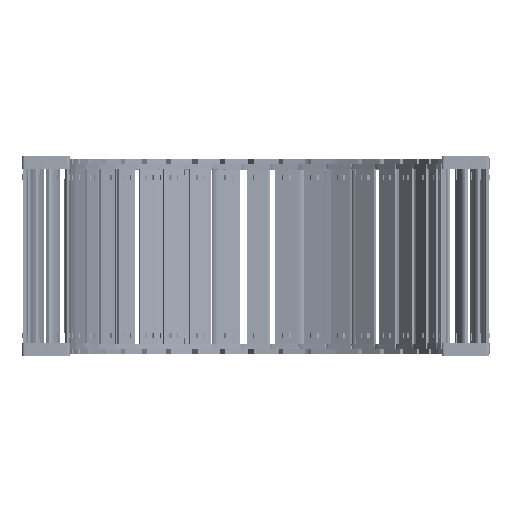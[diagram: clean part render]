
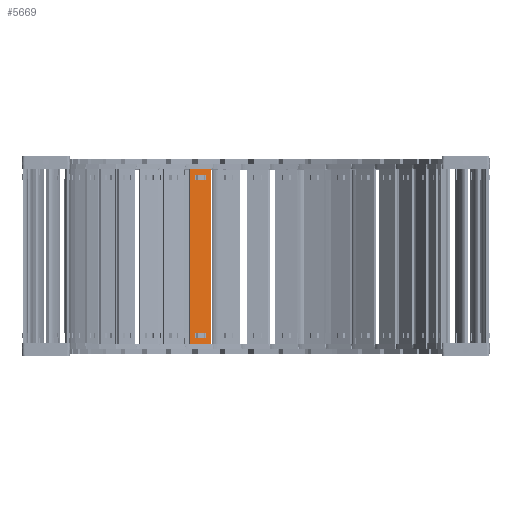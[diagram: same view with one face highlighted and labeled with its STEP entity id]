
A CAD part, top view. The second image highlights one B-rep face of the part: STEP entity #5669.
In plain terms, the highlighted planar face has unit normal (0.279, 0, 0.96) as drawn and (0, 1, 0) by its records, which use the part's own axes.
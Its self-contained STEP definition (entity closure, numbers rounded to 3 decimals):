
#5089=DIRECTION('',(0.,0.,1.));
#5090=VECTOR('',#5089,15.8);
#5091=CARTESIAN_POINT('',(110.74,1.5,-7.9));
#5092=LINE('',#5091,#5090);
#5093=DIRECTION('',(-1.,0.,0.));
#5094=VECTOR('',#5093,125.5);
#5095=CARTESIAN_POINT('',(110.74,1.5,7.9));
#5096=LINE('',#5095,#5094);
#5097=DIRECTION('',(0.,0.,-1.));
#5098=VECTOR('',#5097,15.8);
#5099=CARTESIAN_POINT('',(-14.76,1.5,7.9));
#5100=LINE('',#5099,#5098);
#5101=DIRECTION('',(1.,0.,0.));
#5102=VECTOR('',#5101,3.648);
#5103=CARTESIAN_POINT('',(103.122,1.5,4.075));
#5104=LINE('',#5103,#5102);
#5105=DIRECTION('',(0.,0.,-1.));
#5106=VECTOR('',#5105,8.15);
#5107=CARTESIAN_POINT('',(106.77,1.5,4.075));
#5108=LINE('',#5107,#5106);
#5109=DIRECTION('',(-1.,0.,0.));
#5110=VECTOR('',#5109,3.648);
#5111=CARTESIAN_POINT('',(106.77,1.5,-4.075));
#5112=LINE('',#5111,#5110);
#5113=DIRECTION('',(0.,0.,-1.));
#5114=VECTOR('',#5113,8.15);
#5115=CARTESIAN_POINT('',(-7.142,1.5,4.075));
#5116=LINE('',#5115,#5114);
#5117=DIRECTION('',(-1.,0.,0.));
#5118=VECTOR('',#5117,3.648);
#5119=CARTESIAN_POINT('',(-7.142,1.5,-4.075));
#5120=LINE('',#5119,#5118);
#5121=DIRECTION('',(0.,0.,1.));
#5122=VECTOR('',#5121,8.15);
#5123=CARTESIAN_POINT('',(-10.79,1.5,-4.075));
#5124=LINE('',#5123,#5122);
#5125=DIRECTION('',(1.,0.,0.));
#5126=VECTOR('',#5125,3.648);
#5127=CARTESIAN_POINT('',(-10.79,1.5,4.075));
#5128=LINE('',#5127,#5126);
#5133=DIRECTION('',(-1.,0.,0.));
#5134=VECTOR('',#5133,125.5);
#5135=CARTESIAN_POINT('',(110.74,1.5,-7.9));
#5136=LINE('',#5135,#5134);
#5254=DIRECTION('',(0.,0.,-1.));
#5255=VECTOR('',#5254,8.15);
#5256=CARTESIAN_POINT('',(103.122,1.5,4.075));
#5257=LINE('',#5256,#5255);
#5439=CARTESIAN_POINT('',(106.77,1.5,4.075));
#5440=VERTEX_POINT('',#5439);
#5441=CARTESIAN_POINT('',(103.122,1.5,4.075));
#5442=VERTEX_POINT('',#5441);
#5483=CARTESIAN_POINT('',(103.122,1.5,-4.075));
#5484=VERTEX_POINT('',#5483);
#5485=CARTESIAN_POINT('',(106.77,1.5,-4.075));
#5486=VERTEX_POINT('',#5485);
#5487=CARTESIAN_POINT('',(110.74,1.5,7.9));
#5489=VERTEX_POINT('',#5487);
#5491=CARTESIAN_POINT('',(110.74,1.5,-7.9));
#5492=VERTEX_POINT('',#5491);
#5515=CARTESIAN_POINT('',(-7.142,1.5,4.075));
#5516=CARTESIAN_POINT('',(-7.142,1.5,-4.075));
#5517=VERTEX_POINT('',#5515);
#5518=VERTEX_POINT('',#5516);
#5519=CARTESIAN_POINT('',(-10.79,1.5,-4.075));
#5520=VERTEX_POINT('',#5519);
#5521=CARTESIAN_POINT('',(-10.79,1.5,4.075));
#5522=VERTEX_POINT('',#5521);
#5523=CARTESIAN_POINT('',(-14.76,1.5,7.9));
#5524=VERTEX_POINT('',#5523);
#5527=CARTESIAN_POINT('',(-14.76,1.5,-7.9));
#5528=VERTEX_POINT('',#5527);
#5638=CARTESIAN_POINT('',(142.48,1.5,10.061));
#5639=DIRECTION('',(0.,-1.,0.));
#5640=DIRECTION('',(0.,0.,-1.));
#5641=AXIS2_PLACEMENT_3D('',#5638,#5639,#5640);
#5642=PLANE('',#5641);
#5643=ORIENTED_EDGE('',*,*,#5577,.T.);
#5644=ORIENTED_EDGE('',*,*,#5603,.T.);
#5645=ORIENTED_EDGE('',*,*,#5616,.T.);
#5647=ORIENTED_EDGE('',*,*,#5646,.F.);
#5648=EDGE_LOOP('',(#5643,#5644,#5645,#5647));
#5649=FACE_OUTER_BOUND('',#5648,.F.);
#5651=ORIENTED_EDGE('',*,*,#5650,.F.);
#5652=ORIENTED_EDGE('',*,*,#5540,.T.);
#5654=ORIENTED_EDGE('',*,*,#5653,.T.);
#5656=ORIENTED_EDGE('',*,*,#5655,.T.);
#5657=EDGE_LOOP('',(#5651,#5652,#5654,#5656));
#5658=FACE_BOUND('',#5657,.F.);
#5660=ORIENTED_EDGE('',*,*,#5659,.T.);
#5662=ORIENTED_EDGE('',*,*,#5661,.T.);
#5664=ORIENTED_EDGE('',*,*,#5663,.T.);
#5666=ORIENTED_EDGE('',*,*,#5665,.T.);
#5667=EDGE_LOOP('',(#5660,#5662,#5664,#5666));
#5668=FACE_BOUND('',#5667,.F.);
#5669=ADVANCED_FACE('',(#5649,#5658,#5668),#5642,.F.);
#5540=EDGE_CURVE('',#5442,#5440,#5104,.T.);
#5577=EDGE_CURVE('',#5492,#5489,#5092,.T.);
#5603=EDGE_CURVE('',#5489,#5524,#5096,.T.);
#5616=EDGE_CURVE('',#5524,#5528,#5100,.T.);
#5646=EDGE_CURVE('',#5492,#5528,#5136,.T.);
#5650=EDGE_CURVE('',#5442,#5484,#5257,.T.);
#5653=EDGE_CURVE('',#5440,#5486,#5108,.T.);
#5655=EDGE_CURVE('',#5486,#5484,#5112,.T.);
#5659=EDGE_CURVE('',#5517,#5518,#5116,.T.);
#5661=EDGE_CURVE('',#5518,#5520,#5120,.T.);
#5663=EDGE_CURVE('',#5520,#5522,#5124,.T.);
#5665=EDGE_CURVE('',#5522,#5517,#5128,.T.);
